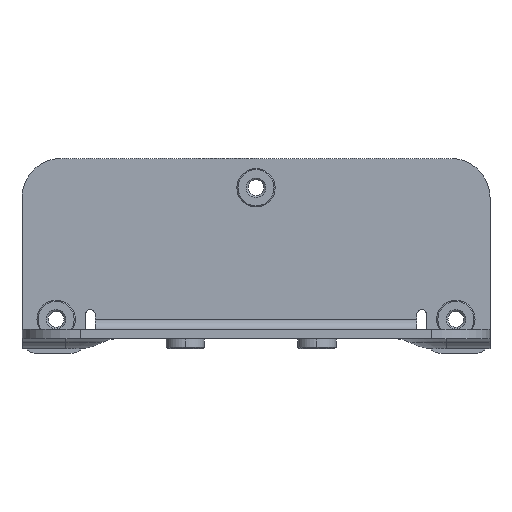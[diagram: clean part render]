
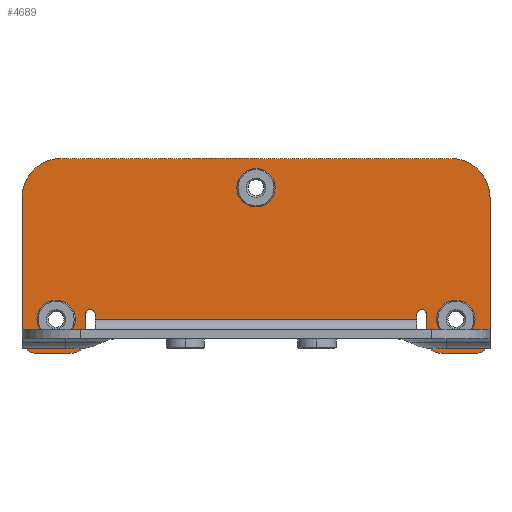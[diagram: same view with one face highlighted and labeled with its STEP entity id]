
A CAD part, front view. The second image highlights one B-rep face of the part: STEP entity #4689.
In plain terms, the highlighted planar face has unit normal (0, -1, 0).
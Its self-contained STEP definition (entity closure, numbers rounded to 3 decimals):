
#2087=CARTESIAN_POINT('',(41.,42.,-3.75));
#2088=DIRECTION('',(0.,1.,0.));
#2089=DIRECTION('',(0.,0.,-1.));
#2090=AXIS2_PLACEMENT_3D('',#2087,#2088,#2089);
#2095=CARTESIAN_POINT('',(41.,42.,-3.75));
#2096=DIRECTION('',(0.,1.,0.));
#2097=DIRECTION('',(0.,0.,1.));
#2098=AXIS2_PLACEMENT_3D('',#2095,#2096,#2097);
#2103=CARTESIAN_POINT('',(-41.,42.,-3.75));
#2104=DIRECTION('',(0.,1.,0.));
#2105=DIRECTION('',(0.,0.,-1.));
#2106=AXIS2_PLACEMENT_3D('',#2103,#2104,#2105);
#2111=CARTESIAN_POINT('',(-41.,42.,-3.75));
#2112=DIRECTION('',(0.,1.,0.));
#2113=DIRECTION('',(0.,0.,1.));
#2114=AXIS2_PLACEMENT_3D('',#2111,#2112,#2113);
#2119=CARTESIAN_POINT('',(0.,42.,23.25));
#2120=DIRECTION('',(0.,1.,0.));
#2121=DIRECTION('',(0.,0.,-1.));
#2122=AXIS2_PLACEMENT_3D('',#2119,#2120,#2121);
#2127=CARTESIAN_POINT('',(0.,42.,23.25));
#2128=DIRECTION('',(0.,1.,0.));
#2129=DIRECTION('',(0.,0.,1.));
#2130=AXIS2_PLACEMENT_3D('',#2127,#2128,#2129);
#2135=CARTESIAN_POINT('',(40.,42.,21.25));
#2136=DIRECTION('',(0.,-1.,0.));
#2137=DIRECTION('',(1.,0.,0.));
#2138=AXIS2_PLACEMENT_3D('',#2135,#2136,#2137);
#2143=CARTESIAN_POINT('',(45.,42.,-7.75));
#2144=DIRECTION('',(0.,-1.,0.));
#2145=DIRECTION('',(0.,0.,-1.));
#2146=AXIS2_PLACEMENT_3D('',#2143,#2144,#2145);
#2151=DIRECTION('',(-1.,0.,0.));
#2152=VECTOR('',#2151,7.);
#2153=CARTESIAN_POINT('',(45.,42.,-10.75));
#2154=LINE('',#2153,#2152);
#2158=CARTESIAN_POINT('',(38.,42.,-7.75));
#2159=DIRECTION('',(0.,-1.,0.));
#2160=DIRECTION('',(-1.,0.,0.));
#2161=AXIS2_PLACEMENT_3D('',#2158,#2159,#2160);
#2166=DIRECTION('',(0.,0.,1.));
#2167=VECTOR('',#2166,5.);
#2168=CARTESIAN_POINT('',(35.,42.,-7.75));
#2169=LINE('',#2168,#2167);
#2173=CARTESIAN_POINT('',(34.,42.,-2.75));
#2174=DIRECTION('',(0.,1.,0.));
#2175=DIRECTION('',(-1.,0.,0.));
#2176=AXIS2_PLACEMENT_3D('',#2173,#2174,#2175);
#2181=DIRECTION('',(0.,0.,1.));
#2182=VECTOR('',#2181,1.);
#2183=CARTESIAN_POINT('',(33.,42.,-3.75));
#2184=LINE('',#2183,#2182);
#2188=DIRECTION('',(-1.,0.,0.));
#2189=VECTOR('',#2188,66.);
#2190=CARTESIAN_POINT('',(33.,42.,-3.75));
#2191=LINE('',#2190,#2189);
#2195=DIRECTION('',(0.,0.,1.));
#2196=VECTOR('',#2195,1.);
#2197=CARTESIAN_POINT('',(-33.,42.,-3.75));
#2198=LINE('',#2197,#2196);
#2202=CARTESIAN_POINT('',(-34.,42.,-2.75));
#2203=DIRECTION('',(0.,-1.,0.));
#2204=DIRECTION('',(1.,0.,0.));
#2205=AXIS2_PLACEMENT_3D('',#2202,#2203,#2204);
#2210=CARTESIAN_POINT('',(-38.,42.,-7.75));
#2211=DIRECTION('',(0.,-1.,0.));
#2212=DIRECTION('',(0.,0.,-1.));
#2213=AXIS2_PLACEMENT_3D('',#2210,#2211,#2212);
#2218=DIRECTION('',(-1.,0.,0.));
#2219=VECTOR('',#2218,7.);
#2220=CARTESIAN_POINT('',(-38.,42.,-10.75));
#2221=LINE('',#2220,#2219);
#2225=CARTESIAN_POINT('',(-45.,42.,-7.75));
#2226=DIRECTION('',(0.,-1.,0.));
#2227=DIRECTION('',(-1.,0.,0.));
#2228=AXIS2_PLACEMENT_3D('',#2225,#2226,#2227);
#2233=DIRECTION('',(0.,0.,1.));
#2234=VECTOR('',#2233,29.);
#2235=CARTESIAN_POINT('',(-48.,42.,-7.75));
#2236=LINE('',#2235,#2234);
#2240=CARTESIAN_POINT('',(-40.,42.,21.25));
#2241=DIRECTION('',(0.,-1.,0.));
#2242=DIRECTION('',(0.,0.,1.));
#2243=AXIS2_PLACEMENT_3D('',#2240,#2241,#2242);
#2304=DIRECTION('',(0.,0.,1.));
#2305=VECTOR('',#2304,29.);
#2306=CARTESIAN_POINT('',(48.,42.,-7.75));
#2307=LINE('',#2306,#2305);
#2360=DIRECTION('',(-1.,0.,0.));
#2361=VECTOR('',#2360,80.);
#2362=CARTESIAN_POINT('',(40.,42.,29.25));
#2363=LINE('',#2362,#2361);
#2423=DIRECTION('',(0.,0.,1.));
#2424=VECTOR('',#2423,5.);
#2425=CARTESIAN_POINT('',(-35.,42.,-7.75));
#2426=LINE('',#2425,#2424);
#2458=CARTESIAN_POINT('',(41.,42.,-6.455));
#2459=CARTESIAN_POINT('',(41.,42.,-1.045));
#2460=VERTEX_POINT('',#2458);
#2461=VERTEX_POINT('',#2459);
#2462=CARTESIAN_POINT('',(-41.,42.,-6.455));
#2463=CARTESIAN_POINT('',(-41.,42.,-1.045));
#2464=VERTEX_POINT('',#2462);
#2465=VERTEX_POINT('',#2463);
#2478=CARTESIAN_POINT('',(48.,42.,21.25));
#2479=VERTEX_POINT('',#2478);
#2480=CARTESIAN_POINT('',(40.,42.,29.25));
#2481=VERTEX_POINT('',#2480);
#2486=CARTESIAN_POINT('',(-40.,42.,29.25));
#2487=VERTEX_POINT('',#2486);
#2488=CARTESIAN_POINT('',(-48.,42.,21.25));
#2489=VERTEX_POINT('',#2488);
#2490=CARTESIAN_POINT('',(33.,42.,-3.75));
#2491=CARTESIAN_POINT('',(33.,42.,-2.75));
#2492=VERTEX_POINT('',#2490);
#2493=VERTEX_POINT('',#2491);
#2502=CARTESIAN_POINT('',(35.,42.,-2.75));
#2503=VERTEX_POINT('',#2502);
#2506=CARTESIAN_POINT('',(-33.,42.,-3.75));
#2507=CARTESIAN_POINT('',(-33.,42.,-2.75));
#2508=VERTEX_POINT('',#2506);
#2509=VERTEX_POINT('',#2507);
#2510=CARTESIAN_POINT('',(-35.,42.,-2.75));
#2511=VERTEX_POINT('',#2510);
#2534=CARTESIAN_POINT('',(45.,42.,-10.75));
#2535=VERTEX_POINT('',#2534);
#2536=CARTESIAN_POINT('',(48.,42.,-7.75));
#2537=VERTEX_POINT('',#2536);
#2542=CARTESIAN_POINT('',(35.,42.,-7.75));
#2543=VERTEX_POINT('',#2542);
#2544=CARTESIAN_POINT('',(38.,42.,-10.75));
#2545=VERTEX_POINT('',#2544);
#2550=CARTESIAN_POINT('',(-38.,42.,-10.75));
#2551=VERTEX_POINT('',#2550);
#2552=CARTESIAN_POINT('',(-35.,42.,-7.75));
#2553=VERTEX_POINT('',#2552);
#2558=CARTESIAN_POINT('',(-48.,42.,-7.75));
#2559=VERTEX_POINT('',#2558);
#2560=CARTESIAN_POINT('',(-45.,42.,-10.75));
#2561=VERTEX_POINT('',#2560);
#2562=CARTESIAN_POINT('',(0.,42.,20.545));
#2563=CARTESIAN_POINT('',(0.,42.,25.955));
#2564=VERTEX_POINT('',#2562);
#2565=VERTEX_POINT('',#2563);
#4630=CARTESIAN_POINT('',(48.,42.,-3.75));
#4631=DIRECTION('',(0.,-1.,0.));
#4632=DIRECTION('',(0.,0.,1.));
#4633=AXIS2_PLACEMENT_3D('',#4630,#4631,#4632);
#4634=PLANE('',#4633);
#4636=ORIENTED_EDGE('',*,*,#4635,.F.);
#4638=ORIENTED_EDGE('',*,*,#4637,.F.);
#4640=ORIENTED_EDGE('',*,*,#4639,.F.);
#4642=ORIENTED_EDGE('',*,*,#4641,.T.);
#4644=ORIENTED_EDGE('',*,*,#4643,.F.);
#4646=ORIENTED_EDGE('',*,*,#4645,.T.);
#4648=ORIENTED_EDGE('',*,*,#4647,.F.);
#4650=ORIENTED_EDGE('',*,*,#4649,.F.);
#4651=ORIENTED_EDGE('',*,*,#3926,.T.);
#4653=ORIENTED_EDGE('',*,*,#4652,.T.);
#4655=ORIENTED_EDGE('',*,*,#4654,.T.);
#4657=ORIENTED_EDGE('',*,*,#4656,.F.);
#4659=ORIENTED_EDGE('',*,*,#4658,.F.);
#4661=ORIENTED_EDGE('',*,*,#4660,.T.);
#4663=ORIENTED_EDGE('',*,*,#4662,.F.);
#4665=ORIENTED_EDGE('',*,*,#4664,.T.);
#4667=ORIENTED_EDGE('',*,*,#4666,.F.);
#4669=ORIENTED_EDGE('',*,*,#4668,.F.);
#4670=EDGE_LOOP('',(#4636,#4638,#4640,#4642,#4644,#4646,#4648,#4650,#4651,#4653,
#4655,#4657,#4659,#4661,#4663,#4665,#4667,#4669));
#4671=FACE_OUTER_BOUND('',#4670,.F.);
#4673=ORIENTED_EDGE('',*,*,#4672,.F.);
#4675=ORIENTED_EDGE('',*,*,#4674,.F.);
#4676=EDGE_LOOP('',(#4673,#4675));
#4677=FACE_BOUND('',#4676,.F.);
#4678=ORIENTED_EDGE('',*,*,#4620,.F.);
#4680=ORIENTED_EDGE('',*,*,#4679,.F.);
#4681=EDGE_LOOP('',(#4678,#4680));
#4682=FACE_BOUND('',#4681,.F.);
#4684=ORIENTED_EDGE('',*,*,#4683,.F.);
#4686=ORIENTED_EDGE('',*,*,#4685,.F.);
#4687=EDGE_LOOP('',(#4684,#4686));
#4688=FACE_BOUND('',#4687,.F.);
#2091=CIRCLE('',#2090,2.705);
#2099=CIRCLE('',#2098,2.705);
#2107=CIRCLE('',#2106,2.705);
#2115=CIRCLE('',#2114,2.705);
#2123=CIRCLE('',#2122,2.705);
#2131=CIRCLE('',#2130,2.705);
#2139=CIRCLE('',#2138,8.);
#2147=CIRCLE('',#2146,3.);
#2162=CIRCLE('',#2161,3.);
#2177=CIRCLE('',#2176,1.);
#2206=CIRCLE('',#2205,1.);
#2214=CIRCLE('',#2213,3.);
#2229=CIRCLE('',#2228,3.);
#2244=CIRCLE('',#2243,8.);
#3926=EDGE_CURVE('',#2492,#2508,#2191,.T.);
#4620=EDGE_CURVE('',#2564,#2565,#2123,.T.);
#4635=EDGE_CURVE('',#2479,#2481,#2139,.T.);
#4637=EDGE_CURVE('',#2537,#2479,#2307,.T.);
#4639=EDGE_CURVE('',#2535,#2537,#2147,.T.);
#4641=EDGE_CURVE('',#2535,#2545,#2154,.T.);
#4643=EDGE_CURVE('',#2543,#2545,#2162,.T.);
#4645=EDGE_CURVE('',#2543,#2503,#2169,.T.);
#4647=EDGE_CURVE('',#2493,#2503,#2177,.T.);
#4649=EDGE_CURVE('',#2492,#2493,#2184,.T.);
#4652=EDGE_CURVE('',#2508,#2509,#2198,.T.);
#4654=EDGE_CURVE('',#2509,#2511,#2206,.T.);
#4656=EDGE_CURVE('',#2553,#2511,#2426,.T.);
#4658=EDGE_CURVE('',#2551,#2553,#2214,.T.);
#4660=EDGE_CURVE('',#2551,#2561,#2221,.T.);
#4662=EDGE_CURVE('',#2559,#2561,#2229,.T.);
#4664=EDGE_CURVE('',#2559,#2489,#2236,.T.);
#4666=EDGE_CURVE('',#2487,#2489,#2244,.T.);
#4668=EDGE_CURVE('',#2481,#2487,#2363,.T.);
#4672=EDGE_CURVE('',#2464,#2465,#2107,.T.);
#4674=EDGE_CURVE('',#2465,#2464,#2115,.T.);
#4679=EDGE_CURVE('',#2565,#2564,#2131,.T.);
#4683=EDGE_CURVE('',#2460,#2461,#2091,.T.);
#4685=EDGE_CURVE('',#2461,#2460,#2099,.T.);
#4689=ADVANCED_FACE('',(#4671,#4677,#4682,#4688),#4634,.T.);
